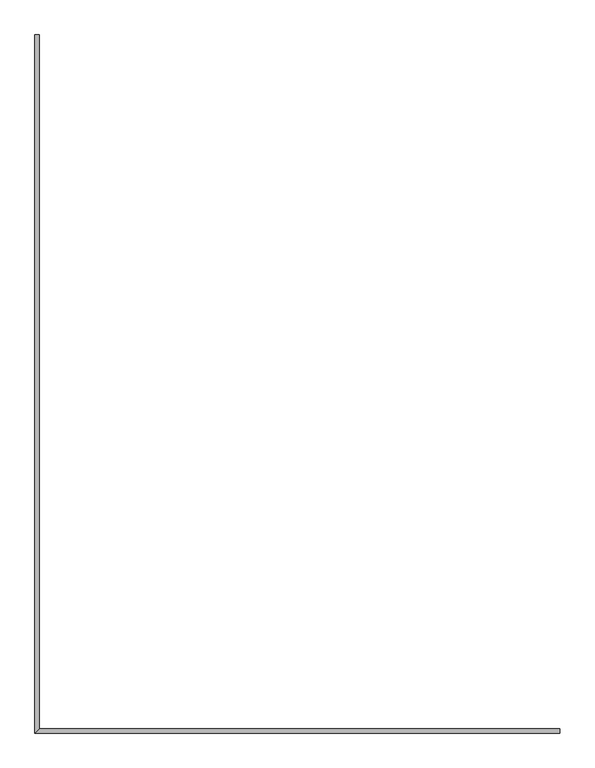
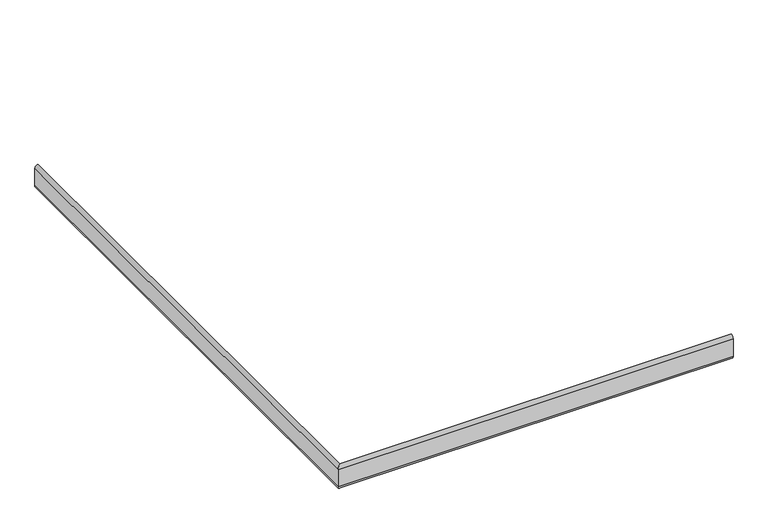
"""IFC4 building model written with IfcOpenShell, lengths in millimetres: railing geometry, Wall Guard-InPro-700i-WG-Concrete."""

from ifc_helpers import new_model, si_unit, frame, origin, place, context, project, spatial, circle_curve, ellipse_curve, source, transform, mapped, element, save
from ifc_brep_helpers import plane_surface, cylinder_surface, advanced_brep


def railing_ae1c5ef0(model_context):
    return source(origin(), model_context, "Body", "AdvancedBrep", [
        advanced_brep(
        [(-27466.109124, 18558.6919835, 717.55), (-27491.509124, 18558.6919835, 742.95), (-27491.509124, 18558.6919835, 889.0), (-27466.109124, 18558.6919835, 914.4), (-27466.109124, 14393.0919835, 717.55), (-27491.509124, 14367.6919835, 742.95), (-27491.509124, 14367.6919835, 889.0), (-27466.109124, 14393.0919835, 914.4), (-24341.909124, 14393.0919835, 717.55), (-24341.909124, 14393.0919835, 914.4), (-24341.909124, 14367.6919835, 889.0), (-24341.909124, 14367.6919835, 742.95)],
        [
            (0, 1, circle_curve(frame((-27466.109124, 18558.6919835, 742.95), z_axis=(0.0, 1.0, 0.0), x_axis=(-1.0, 0.0, 0.0)), 25.4)),
            (1, 2),
            (2, 3, circle_curve(frame((-27466.109124, 18558.6919835, 889.0), z_axis=(0.0, 1.0, 0.0), x_axis=(-1.0, 0.0, 0.0)), 25.4)),
            (3, 0),
            (0, 4),
            (4, 5, ellipse_curve(frame((-27466.109124, 14393.0919835, 742.95), z_axis=(-0.7071067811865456, 0.7071067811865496, 0.0), x_axis=(0.7071067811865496, 0.7071067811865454, 0.0)), 35.9210245, 25.4)),
            (5, 1),
            (5, 6),
            (6, 2),
            (6, 7, ellipse_curve(frame((-27466.109124, 14393.0919835, 889.0), z_axis=(-0.7071067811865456, 0.7071067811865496, 0.0), x_axis=(0.7071067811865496, 0.7071067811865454, 0.0)), 35.9210245, 25.4)),
            (7, 3),
            (7, 4),
            (8, 9),
            (9, 10, circle_curve(frame((-24341.909124, 14393.0919835, 889.0), z_axis=(1.0, 0.0, 0.0), x_axis=(0.0, -1.0, 0.0)), 25.4)),
            (10, 11),
            (11, 8, circle_curve(frame((-24341.909124, 14393.0919835, 742.95), z_axis=(1.0, 0.0, 0.0), x_axis=(0.0, -1.0, 0.0)), 25.4)),
            (4, 8),
            (11, 5),
            (10, 6),
            (9, 7),
        ],
        [
            plane_surface(frame((-27466.109124, 18558.6919835, 914.4), z_axis=(0.0, 1.0, 0.0), x_axis=(0.0, 0.0, -1.0))),
            cylinder_surface(frame((-27466.109124, 18558.6919835, 742.95), z_axis=(0.0, 1.0, 0.0), x_axis=(-1.0, 0.0, 0.0)), 25.4),
            plane_surface(frame((-27491.509124, 18558.6919835, 742.95), z_axis=(-1.0, 0.0, 0.0), x_axis=(0.0, -1.0, 0.0))),
            cylinder_surface(frame((-27466.109124, 18558.6919835, 889.0), z_axis=(0.0, 1.0, 0.0), x_axis=(-1.0, 0.0, 0.0)), 25.4),
            plane_surface(frame((-27466.109124, 18558.6919835, 914.4), z_axis=(1.0, 0.0, 0.0), x_axis=(0.0, -1.0, 0.0))),
            plane_surface(frame((-24341.909124, 14393.0919835, 914.4), z_axis=(1.0, 0.0, 0.0), x_axis=(0.0, 1.0, 0.0))),
            cylinder_surface(frame((-27466.109124, 14393.0919835, 742.95), z_axis=(-1.0, 0.0, 0.0), x_axis=(0.0, -1.0, 0.0)), 25.4),
            plane_surface(frame((-27491.509124, 14367.6919835, 742.95), z_axis=(0.0, -1.0, 0.0), x_axis=(1.0, 0.0, 0.0))),
            cylinder_surface(frame((-27466.109124, 14393.0919835, 889.0), z_axis=(-1.0, 0.0, 0.0), x_axis=(0.0, -1.0, 0.0)), 25.4),
            plane_surface(frame((-27466.109124, 14393.0919835, 914.4), z_axis=(0.0, 1.0, 0.0), x_axis=(1.0, 0.0, 0.0))),
        ],
        [
            (0, [[1, 2, 3, 4]]),
            (1, [[-1, 5, 6, 7]]),
            (2, [[-2, -7, 8, 9]]),
            (3, [[-3, -9, 10, 11]]),
            (4, [[-4, -11, 12, -5]]),
            (5, [[13, 14, 15, 16]]),
            (6, [[-6, 17, -16, 18]]),
            (7, [[-8, -18, -15, 19]]),
            (8, [[-10, -19, -14, 20]]),
            (9, [[-12, -20, -13, -17]]),
        ],
    ),
    ])


if __name__ == "__main__":
    model = new_model("IFC4")
    model_context = context("Model", 3, world=origin())
    ifc_project = project(units=[si_unit("LENGTHUNIT", "METRE", prefix="MILLI")], contexts=[model_context])
    site = spatial("IfcSite", under=ifc_project)
    building = spatial("IfcBuilding", under=site)
    placement = place(None, origin())
    railing_shape = railing_ae1c5ef0(model_context)
    element("IfcRailing", 1, ObjectType="Wall Guard-InPro-700i-WG-Concrete", at=placement, inside=building, context=model_context, shape_type="MappedRepresentation", body=[
        mapped(railing_shape, transform((0.0, 0.0, 0.0), x_axis=(1.0, 0.0, 0.0), y_axis=(0.0, 1.0, 0.0), z_axis=(0.0, 0.0, 1.0))),
    ])
    save(model, "model.ifc")
